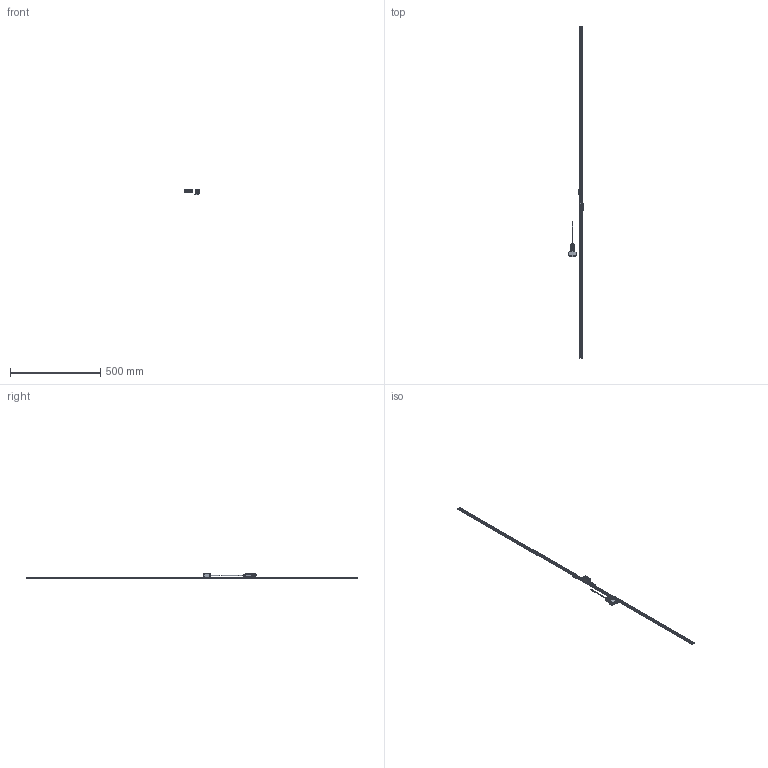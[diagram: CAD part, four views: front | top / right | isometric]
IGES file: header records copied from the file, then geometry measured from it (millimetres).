
Start section: Elysium IGES Interface
Global section: file name: 92HK:\20_商品設計\設計１課\個人\山室\05_作業中雑務\20220810_ST1300 3D HP掲載\ST1300-1800F_G.igs; native system: Creo Elements/Direct Modeling 18.1I  13-Aug-2016; preprocessor: Creo Element/Direct IGES_3D V2.2; author: Unknown; organization: Unknown; date: 20220816.110709; units: millimetre
Bounding box: 83 x 1840 x 30.1 mm (x, y, z)
Volume: 171626.7 mm3; surface area: 102341.2 mm2
Topology: 3 solids, 6 shells, 3662 faces, 10030 edges, 6526 vertices
Faces by surface type: bspline 3662
